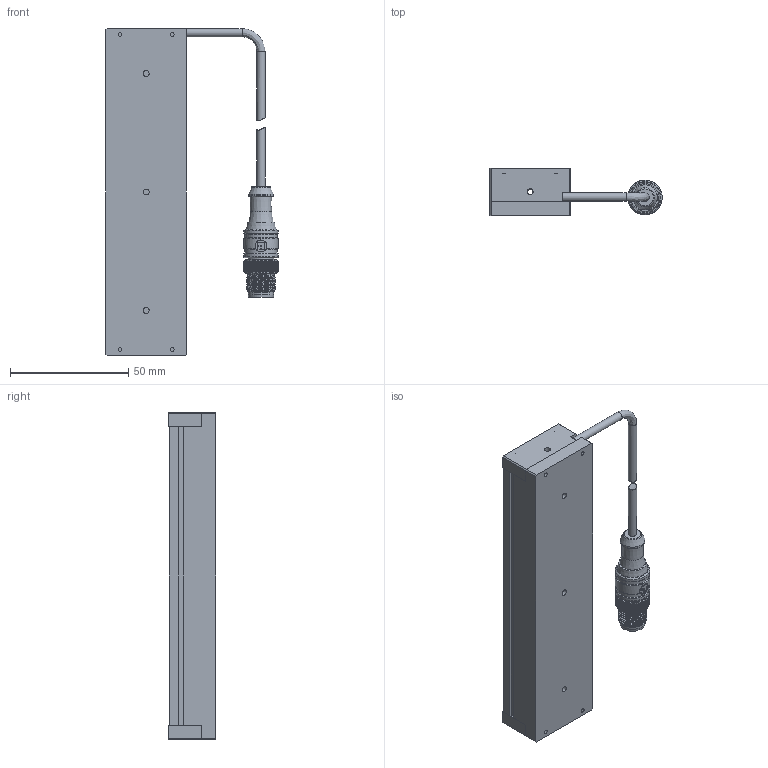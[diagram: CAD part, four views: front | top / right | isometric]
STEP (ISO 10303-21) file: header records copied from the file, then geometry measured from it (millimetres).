
FILE_DESCRIPTION (( 'STEP AP203' ), '1' );
FILE_NAME ('EFFI-LSBR-125-6-x.STEP', '2019-06-19T08:26:46', ( '' ), ( '' ), 'SwSTEP 2.0', 'SolidWorks 2011', '' );
FILE_SCHEMA (( 'CONFIG_CONTROL_DESIGN' ));
Products named in the file (1): EFFI-LSBR-125-6-x
Bounding box: 72.75 x 20 x 138 mm (x, y, z)
Surface area: 22977.8 mm2 (no closed solid volume)
Topology: 0 solids, 675 shells, 2748 faces, 9553 edges, 7325 vertices
Faces by surface type: bspline 2311, cylinder 273, cone 76, plane 72, torus 16
Full cylindrical faces by diameter (mm): 1 x4, 1.6 x6, 2 x1, 2.5 x5, 3.5 x4, 4.4 x4, 5 x1, 8.3 x1, 10.5 x1, 10.7 x1, 10.9 x1, 11 x1, 12 x6, 13.75 x1, 13.9 x2, 14.499 x1, 14.5 x2
Entity records: 125935 total; most frequent: CARTESIAN_POINT 78629, ORIENTED_EDGE 11800, EDGE_CURVE 9397, VERTEX_POINT 7273, B_SPLINE_CURVE_WITH_KNOTS 5727, EDGE_LOOP 2887, FACE_OUTER_BOUND 2808, ADVANCED_FACE 2748
